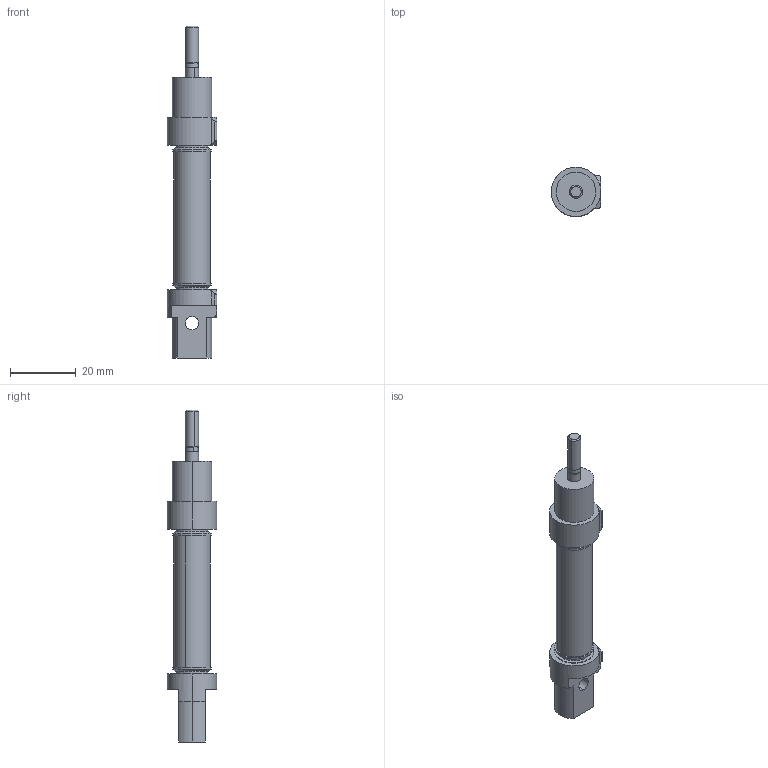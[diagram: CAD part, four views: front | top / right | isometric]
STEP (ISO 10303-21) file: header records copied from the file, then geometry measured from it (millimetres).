
FILE_DESCRIPTION (( 'STEP AP203' ), '1' );
FILE_NAME ('MA6432S10X15CYLINDER.STEP', '2015-05-13T07:08:49', ( 'user' ), ( '' ), 'SwSTEP 2.0', 'SolidWorks 2013', '' );
FILE_SCHEMA (( 'CONFIG_CONTROL_DESIGN' ));
Length unit declared in the file: millimetre
Products named in the file (6): MA6432S 10X15 BORU; MA6432S  10 烰 KAPAK; MA6432S 10X15 M尳; MA6432S10X15CYLINDER; MA6432S  10 ARKA KAPAK; MA6432S  10 ORTA PÝSTON
Assembly tree (5 placements, depth 2):
  MA6432S10X15CYLINDER
    MA6432S  10 ARKA KAPAK
    MA6432S  10 ORTA PÝSTON
    MA6432S 10X15 BORU
    MA6432S  10 烰 KAPAK
    MA6432S 10X15 M尳
Bounding box: 15 x 15 x 101 mm (x, y, z)
Volume: 7814.5 mm3; surface area: 8420.5 mm2
Topology: 5 solids, 6 shells, 173 faces, 385 edges, 244 vertices
Faces by surface type: cylinder 93, plane 48, cone 32
Entity records: 5661 total; most frequent: CARTESIAN_POINT 1051, DIRECTION 917, ORIENTED_EDGE 766, AXIS2_PLACEMENT_3D 386, EDGE_CURVE 383, VERTEX_POINT 244, EDGE_LOOP 207, CIRCLE 206
